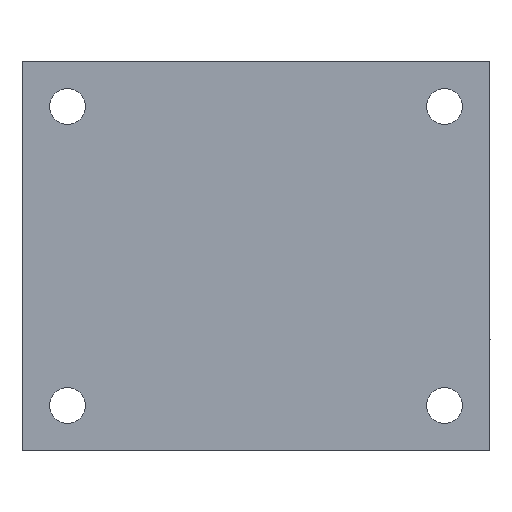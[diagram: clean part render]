
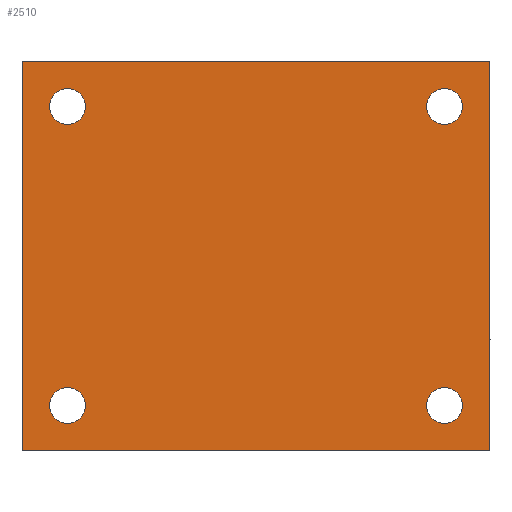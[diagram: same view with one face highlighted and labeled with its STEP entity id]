
A CAD part, front view. The second image highlights one B-rep face of the part: STEP entity #2510.
In plain terms, the highlighted planar face has unit normal (0, -1, 0).
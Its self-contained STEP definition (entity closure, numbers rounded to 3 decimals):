
#51 = AXIS2_PLACEMENT_3D ( 'NONE', #6593, #1635, #7419 ) ;
#321 = AXIS2_PLACEMENT_3D ( 'NONE', #8276, #3320, #9125 ) ;
#323 = FACE_OUTER_BOUND ( 'NONE', #9328, .T. ) ;
#352 = AXIS2_PLACEMENT_3D ( 'NONE', #8848, #3858, #9681 ) ;
#392 = VERTEX_POINT ( 'NONE', #6225 ) ;
#626 = VERTEX_POINT ( 'NONE', #3629 ) ;
#665 = AXIS2_PLACEMENT_3D ( 'NONE', #6296, #1339, #7133 ) ;
#721 = AXIS2_PLACEMENT_3D ( 'NONE', #813, #6604, #1644 ) ;
#754 = CIRCLE ( 'NONE', #721, 2.75 ) ;
#798 = DIRECTION ( 'NONE',  ( 0., 1., 0. ) ) ;
#813 = CARTESIAN_POINT ( 'NONE',  ( 65., -14.75, 23. ) ) ;
#832 = CARTESIAN_POINT ( 'NONE',  ( 65., -14.75, -23. ) ) ;
#882 = CARTESIAN_POINT ( 'NONE',  ( 7., -14.75, 23. ) ) ;
#921 = EDGE_LOOP ( 'NONE', ( #8236, #9792 ) ) ;
#1147 = VECTOR ( 'NONE', #9107, 1000. ) ;
#1339 = DIRECTION ( 'NONE',  ( 0., 1., 0. ) ) ;
#1468 = CARTESIAN_POINT ( 'NONE',  ( 72., -14.75, -30. ) ) ;
#1575 = AXIS2_PLACEMENT_3D ( 'NONE', #882, #6673, #1718 ) ;
#1635 = DIRECTION ( 'NONE',  ( 0., 1., 0. ) ) ;
#1644 = DIRECTION ( 'NONE',  ( 0., 0., 1. ) ) ;
#1662 = DIRECTION ( 'NONE',  ( 0., 0., 1. ) ) ;
#1718 = DIRECTION ( 'NONE',  ( 0., 0., 1. ) ) ;
#1985 = CIRCLE ( 'NONE', #665, 2.75 ) ;
#2022 = VERTEX_POINT ( 'NONE', #7002 ) ;
#2266 = FACE_BOUND ( 'NONE', #6866, .T. ) ;
#2400 = VERTEX_POINT ( 'NONE', #6029 ) ;
#2510 = ADVANCED_FACE ( 'NONE', ( #9140, #6930, #2266, #4466, #323 ), #2870, .F. ) ;
#2575 = AXIS2_PLACEMENT_3D ( 'NONE', #3446, #3579, #3681 ) ;
#2578 = ORIENTED_EDGE ( 'NONE', *, *, #5562, .T. ) ;
#2870 = PLANE ( 'NONE',  #2575 ) ;
#2877 = CIRCLE ( 'NONE', #321, 2.75 ) ;
#3139 = VECTOR ( 'NONE', #8965, 1000. ) ;
#3296 = ORIENTED_EDGE ( 'NONE', *, *, #7475, .T. ) ;
#3307 = CARTESIAN_POINT ( 'NONE',  ( 0., -14.75, 30. ) ) ;
#3320 = DIRECTION ( 'NONE',  ( 0., 1., 0. ) ) ;
#3446 = CARTESIAN_POINT ( 'NONE',  ( 72., -14.75, 30. ) ) ;
#3579 = DIRECTION ( 'NONE',  ( 0., 1., 0. ) ) ;
#3599 = CARTESIAN_POINT ( 'NONE',  ( 7., -14.75, 20.25 ) ) ;
#3629 = CARTESIAN_POINT ( 'NONE',  ( 65., -14.75, -25.75 ) ) ;
#3681 = DIRECTION ( 'NONE',  ( 0., 0., 1. ) ) ;
#3858 = DIRECTION ( 'NONE',  ( 0., 1., 0. ) ) ;
#4311 = CIRCLE ( 'NONE', #1575, 2.75 ) ;
#4351 = ORIENTED_EDGE ( 'NONE', *, *, #7363, .T. ) ;
#4353 = EDGE_CURVE ( 'NONE', #2400, #10482, #9494, .T. ) ;
#4395 = ORIENTED_EDGE ( 'NONE', *, *, #6950, .T. ) ;
#4466 = FACE_BOUND ( 'NONE', #10245, .T. ) ;
#4960 = LINE ( 'NONE', #7263, #5469 ) ;
#5082 = CARTESIAN_POINT ( 'NONE',  ( 65., -14.75, -20.25 ) ) ;
#5119 = CARTESIAN_POINT ( 'NONE',  ( 7., -14.75, -20.25 ) ) ;
#5153 = CIRCLE ( 'NONE', #352, 2.75 ) ;
#5236 = EDGE_CURVE ( 'NONE', #10482, #7704, #7495, .T. ) ;
#5287 = CIRCLE ( 'NONE', #51, 2.75 ) ;
#5469 = VECTOR ( 'NONE', #9801, 1000. ) ;
#5562 = EDGE_CURVE ( 'NONE', #8404, #2022, #754, .T. ) ;
#5656 = EDGE_CURVE ( 'NONE', #6540, #7704, #10728, .T. ) ;
#5748 = CARTESIAN_POINT ( 'NONE',  ( 7., -14.75, -23. ) ) ;
#5869 = AXIS2_PLACEMENT_3D ( 'NONE', #832, #6626, #1662 ) ;
#5914 = EDGE_CURVE ( 'NONE', #626, #6996, #5153, .T. ) ;
#6029 = CARTESIAN_POINT ( 'NONE',  ( 72., -14.75, 30. ) ) ;
#6225 = CARTESIAN_POINT ( 'NONE',  ( 7., -14.75, -25.75 ) ) ;
#6245 = ORIENTED_EDGE ( 'NONE', *, *, #7692, .F. ) ;
#6296 = CARTESIAN_POINT ( 'NONE',  ( 7., -14.75, 23. ) ) ;
#6390 = EDGE_CURVE ( 'NONE', #392, #7046, #5287, .T. ) ;
#6426 = AXIS2_PLACEMENT_3D ( 'NONE', #5748, #798, #6589 ) ;
#6434 = DIRECTION ( 'NONE',  ( -1., 0., 0. ) ) ;
#6473 = ORIENTED_EDGE ( 'NONE', *, *, #4353, .T. ) ;
#6540 = VERTEX_POINT ( 'NONE', #7386 ) ;
#6589 = DIRECTION ( 'NONE',  ( 0., 0., 1. ) ) ;
#6593 = CARTESIAN_POINT ( 'NONE',  ( 7., -14.75, -23. ) ) ;
#6604 = DIRECTION ( 'NONE',  ( 0., 1., 0. ) ) ;
#6626 = DIRECTION ( 'NONE',  ( 0., 1., 0. ) ) ;
#6673 = DIRECTION ( 'NONE',  ( 0., 1., 0. ) ) ;
#6866 = EDGE_LOOP ( 'NONE', ( #8955, #2578 ) ) ;
#6930 = FACE_BOUND ( 'NONE', #921, .T. ) ;
#6950 = EDGE_CURVE ( 'NONE', #10364, #7387, #4311, .T. ) ;
#6996 = VERTEX_POINT ( 'NONE', #5082 ) ;
#7002 = CARTESIAN_POINT ( 'NONE',  ( 65., -14.75, 25.75 ) ) ;
#7046 = VERTEX_POINT ( 'NONE', #5119 ) ;
#7133 = DIRECTION ( 'NONE',  ( 0., 0., 1. ) ) ;
#7263 = CARTESIAN_POINT ( 'NONE',  ( 72., -14.75, 30. ) ) ;
#7295 = CIRCLE ( 'NONE', #5869, 2.75 ) ;
#7311 = ORIENTED_EDGE ( 'NONE', *, *, #5236, .T. ) ;
#7314 = CARTESIAN_POINT ( 'NONE',  ( 7., -14.75, 25.75 ) ) ;
#7363 = EDGE_CURVE ( 'NONE', #7387, #10364, #1985, .T. ) ;
#7386 = CARTESIAN_POINT ( 'NONE',  ( 72., -14.75, -30. ) ) ;
#7387 = VERTEX_POINT ( 'NONE', #7314 ) ;
#7419 = DIRECTION ( 'NONE',  ( 0., 0., 1. ) ) ;
#7475 = EDGE_CURVE ( 'NONE', #7046, #392, #7809, .T. ) ;
#7489 = EDGE_CURVE ( 'NONE', #6996, #626, #7295, .T. ) ;
#7495 = LINE ( 'NONE', #3307, #1147 ) ;
#7501 = EDGE_CURVE ( 'NONE', #2022, #8404, #2877, .T. ) ;
#7692 = EDGE_CURVE ( 'NONE', #2400, #6540, #4960, .T. ) ;
#7704 = VERTEX_POINT ( 'NONE', #8961 ) ;
#7809 = CIRCLE ( 'NONE', #6426, 2.75 ) ;
#8124 = CARTESIAN_POINT ( 'NONE',  ( 72., -14.75, 30. ) ) ;
#8223 = CARTESIAN_POINT ( 'NONE',  ( 65., -14.75, 20.25 ) ) ;
#8236 = ORIENTED_EDGE ( 'NONE', *, *, #7489, .T. ) ;
#8276 = CARTESIAN_POINT ( 'NONE',  ( 65., -14.75, 23. ) ) ;
#8404 = VERTEX_POINT ( 'NONE', #8223 ) ;
#8508 = VECTOR ( 'NONE', #6434, 1000. ) ;
#8848 = CARTESIAN_POINT ( 'NONE',  ( 65., -14.75, -23. ) ) ;
#8955 = ORIENTED_EDGE ( 'NONE', *, *, #7501, .T. ) ;
#8961 = CARTESIAN_POINT ( 'NONE',  ( 0., -14.75, -30. ) ) ;
#8965 = DIRECTION ( 'NONE',  ( -1., 0., 0. ) ) ;
#9107 = DIRECTION ( 'NONE',  ( 0., 0., -1. ) ) ;
#9125 = DIRECTION ( 'NONE',  ( 0., 0., 1. ) ) ;
#9140 = FACE_BOUND ( 'NONE', #9349, .T. ) ;
#9328 = EDGE_LOOP ( 'NONE', ( #7311, #9977, #6245, #6473 ) ) ;
#9349 = EDGE_LOOP ( 'NONE', ( #3296, #9972 ) ) ;
#9494 = LINE ( 'NONE', #8124, #3139 ) ;
#9681 = DIRECTION ( 'NONE',  ( 0., 0., 1. ) ) ;
#9702 = CARTESIAN_POINT ( 'NONE',  ( 0., -14.75, 30. ) ) ;
#9792 = ORIENTED_EDGE ( 'NONE', *, *, #5914, .T. ) ;
#9801 = DIRECTION ( 'NONE',  ( 0., 0., -1. ) ) ;
#9972 = ORIENTED_EDGE ( 'NONE', *, *, #6390, .T. ) ;
#9977 = ORIENTED_EDGE ( 'NONE', *, *, #5656, .F. ) ;
#10245 = EDGE_LOOP ( 'NONE', ( #4351, #4395 ) ) ;
#10364 = VERTEX_POINT ( 'NONE', #3599 ) ;
#10482 = VERTEX_POINT ( 'NONE', #9702 ) ;
#10728 = LINE ( 'NONE', #1468, #8508 ) ;
